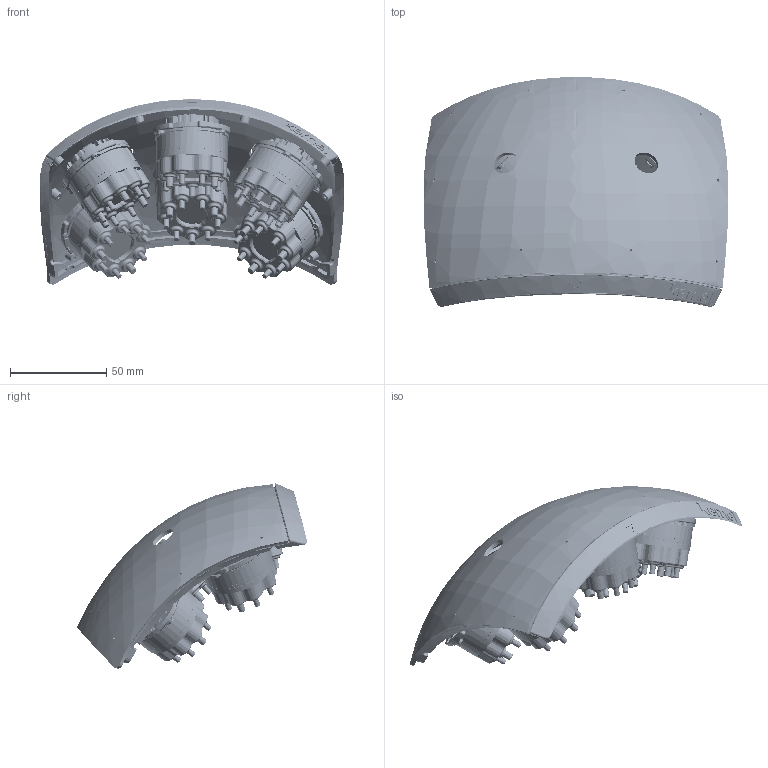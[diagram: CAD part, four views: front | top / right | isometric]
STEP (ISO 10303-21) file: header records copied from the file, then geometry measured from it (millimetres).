
FILE_DESCRIPTION (( 'STEP AP214' ), '1' );
FILE_NAME ('Kernel_Flow2_Simplified_FrontPlate_wModules.STEP', '2024-10-04T13:00:05', ( '' ), ( '' ), 'SwSTEP 2.0', 'SolidWorks 2023', '' );
FILE_SCHEMA (( 'AUTOMOTIVE_DESIGN' ));
Length unit declared in the file: millimetre
Products named in the file (8): Kernel_Flow2_Simplified_FrontPlate_Rev2; Kernel Generic Module Flow2.STEP_M1; Kernel_Flow2_Simplified_Front_Outer_Cover_Rev3; Kernel Generic Module Flow2.STEP_M2; Kernel Generic Module Flow2.STEP_M4; Kernel_Flow2_Simplified_FrontPlate_wModules; Kernel Generic Module Flow2.STEP_M3; Kernel Generic Module Flow2.STEP_M0
Assembly tree (8 placements, depth 2):
  Kernel_Flow2_Simplified_FrontPlate_wModules
    Kernel_Flow2_Simplified_FrontPlate_Rev2
    Kernel_Flow2_Simplified_Front_Outer_Cover_Rev3
    Kernel Generic Module Flow2.STEP_M0
    Kernel Generic Module Flow2.STEP_M1
    Kernel Generic Module Flow2.STEP_M2
    Kernel Generic Module Flow2.STEP_M3  x2
    Kernel Generic Module Flow2.STEP_M4
Bounding box: 158.55 x 119.73 x 96.51 mm (x, y, z)
Volume: 53667.2 mm3; surface area: 153222.3 mm2
Topology: 2 solids, 116 shells, 5898 faces, 14800 edges, 9222 vertices
Faces by surface type: cylinder 1952, plane 1365, torus 966, cone 858, bspline 487, sphere 270
Entity records: 252769 total; most frequent: CARTESIAN_POINT 134684, DIRECTION 25184, ORIENTED_EDGE 24707, EDGE_CURVE 12371, AXIS2_PLACEMENT_3D 10727, VERTEX_POINT 7769, CIRCLE 6198, EDGE_LOOP 5295
